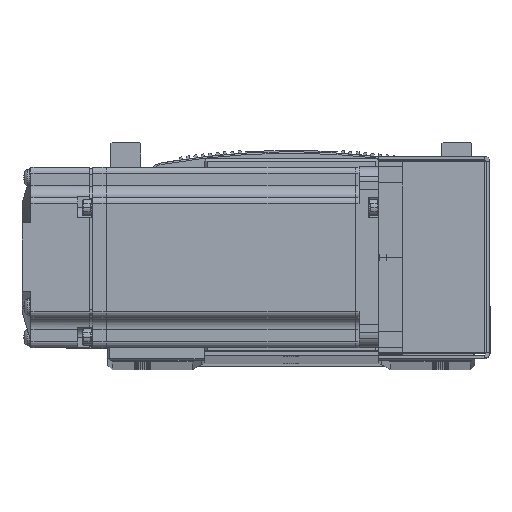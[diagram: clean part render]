
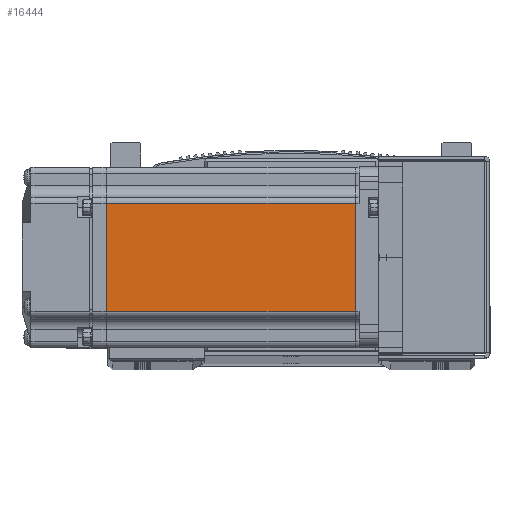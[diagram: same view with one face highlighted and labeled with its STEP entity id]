
A CAD part, top view. The second image highlights one B-rep face of the part: STEP entity #16444.
In plain terms, the highlighted planar face has unit normal (0, 0, 1) as drawn and (0, 1, 0) by its records, which use the part's own axes.
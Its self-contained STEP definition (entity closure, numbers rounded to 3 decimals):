
#2439 = VERTEX_POINT ( 'NONE', #15393 ) ;
#2575 = VERTEX_POINT ( 'NONE', #15484 ) ;
#2659 = VERTEX_POINT ( 'NONE', #15412 ) ;
#2686 = VERTEX_POINT ( 'NONE', #15577 ) ;
#3364 = LINE ( 'NONE', #85589, #3365 ) ;
#3365 = VECTOR ( 'NONE', #85602, 1000. ) ;
#4303 = EDGE_CURVE ( 'NONE', #2686, #2659, #66850, .T. ) ;
#4313 = EDGE_CURVE ( 'NONE', #2575, #2439, #66892, .T. ) ;
#4318 = EDGE_CURVE ( 'NONE', #2439, #2659, #3364, .T. ) ;
#4516 = EDGE_CURVE ( 'NONE', #2686, #2575, #67994, .T. ) ;
#15393 = CARTESIAN_POINT ( 'NONE',  ( -90.45, 30., 18. ) ) ;
#15412 = CARTESIAN_POINT ( 'NONE',  ( -7.75, 30., 18. ) ) ;
#15484 = CARTESIAN_POINT ( 'NONE',  ( -90.45, 30., -18. ) ) ;
#15577 = CARTESIAN_POINT ( 'NONE',  ( -7.75, 30., -18. ) ) ;
#16444 = ADVANCED_FACE ( 'NONE', ( #32579 ), #38868, .T. ) ;
#32187 = EDGE_LOOP ( 'NONE', ( #91216, #91188, #91184, #91217 ) ) ;
#32579 = FACE_OUTER_BOUND ( 'NONE', #32187, .T. ) ;
#38868 = PLANE ( 'NONE',  #44741 ) ;
#38871 = DIRECTION ( 'NONE',  ( 0., 0., 1. ) ) ;
#38877 = DIRECTION ( 'NONE',  ( 0., 1., 0. ) ) ;
#38885 = CARTESIAN_POINT ( 'NONE',  ( -6.5, 30., 25. ) ) ;
#44741 = AXIS2_PLACEMENT_3D ( 'NONE', #38885, #38877, #38871 ) ;
#66850 = LINE ( 'NONE', #85568, #66851 ) ;
#66851 = VECTOR ( 'NONE', #85590, 1000. ) ;
#66855 = VECTOR ( 'NONE', #85578, 1000. ) ;
#66892 = LINE ( 'NONE', #85584, #66855 ) ;
#67994 = LINE ( 'NONE', #85632, #67995 ) ;
#67995 = VECTOR ( 'NONE', #85614, 1000. ) ;
#85568 = CARTESIAN_POINT ( 'NONE',  ( -7.75, 30., 0. ) ) ;
#85578 = DIRECTION ( 'NONE',  ( 0., 0., 1. ) ) ;
#85584 = CARTESIAN_POINT ( 'NONE',  ( -90.45, 30., 0. ) ) ;
#85589 = CARTESIAN_POINT ( 'NONE',  ( -6.5, 30., 18. ) ) ;
#85590 = DIRECTION ( 'NONE',  ( 0., 0., 1. ) ) ;
#85602 = DIRECTION ( 'NONE',  ( 1., 0., 0. ) ) ;
#85614 = DIRECTION ( 'NONE',  ( -1., 0., 0. ) ) ;
#85632 = CARTESIAN_POINT ( 'NONE',  ( -6.5, 30., -18. ) ) ;
#91184 = ORIENTED_EDGE ( 'NONE', *, *, #4313, .T. ) ;
#91188 = ORIENTED_EDGE ( 'NONE', *, *, #4516, .T. ) ;
#91216 = ORIENTED_EDGE ( 'NONE', *, *, #4303, .F. ) ;
#91217 = ORIENTED_EDGE ( 'NONE', *, *, #4318, .T. ) ;
